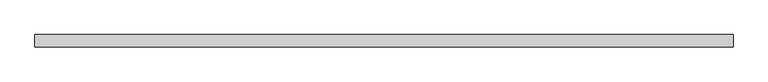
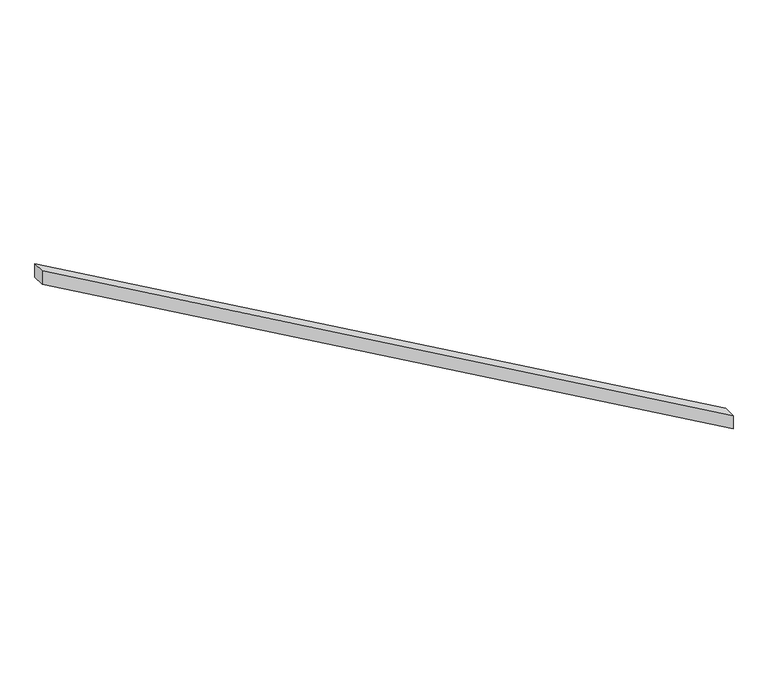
"""IFC4 building model written with IfcOpenShell, lengths in millimetres: railing geometry, 1100mm Exotic green_uten stølper."""

from ifc_helpers import new_model, si_unit, frame, origin, place, context, project, spatial, polyline, outline, extrude, source, transform, mapped, element, save


def railing_c8f84e94(model_context):
    return source(origin(), model_context, "Body", "SweptSolid", [
        extrude(outline(polyline([(5302.4124447, 67006.5441909), (5360.0, 67006.5441909), (6960.0, 64206.5441909), (6902.4124447, 64206.5441909), (5302.4124447, 67006.5441909)])), frame((0.0, 8014.3716413, 0.0), z_axis=(0.0, 1.0, 0.0), x_axis=(0.0, 0.0, 1.0)), (0.0, 0.0, 1.0), 50.0),
    ])


if __name__ == "__main__":
    model = new_model("IFC4")
    model_context = context("Model", 3, world=origin())
    ifc_project = project(units=[si_unit("LENGTHUNIT", "METRE", prefix="MILLI")], contexts=[model_context])
    site = spatial("IfcSite", under=ifc_project)
    building = spatial("IfcBuilding", under=site)
    placement = place(None, origin())
    railing_shape = railing_c8f84e94(model_context)
    element("IfcRailing", 1, ObjectType="1100mm Exotic green_uten stølper", at=placement, inside=building, context=model_context, shape_type="MappedRepresentation", body=[
        mapped(railing_shape, transform((0.0, 0.0, 0.0), x_axis=(1.0, 0.0, 0.0), y_axis=(0.0, 1.0, 0.0), z_axis=(0.0, 0.0, 1.0))),
    ])
    save(model, "model.ifc")
